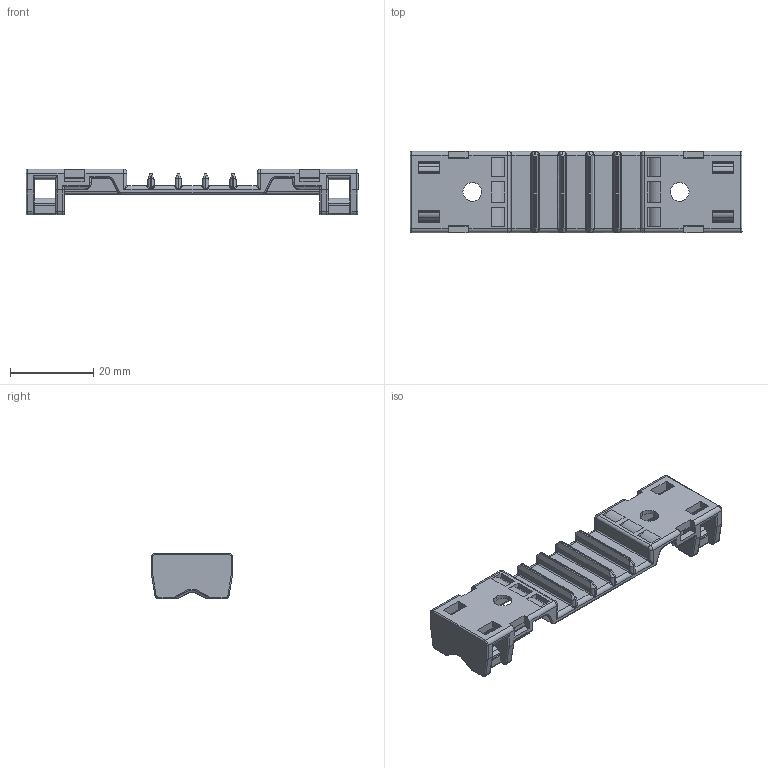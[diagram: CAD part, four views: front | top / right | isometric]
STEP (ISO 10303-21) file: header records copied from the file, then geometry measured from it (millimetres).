
FILE_DESCRIPTION(('Creo Elements/Direct Modeling STEP Export'),'2;1');
FILE_NAME('OL-G4A-80.stp','2013-03-11T14:53:26',(''),(''),'Creo Elements/Direct Modeling STEP processor for AP214 (Solid Model)','Creo Elements/Direct Modeling 18.1B 29-Sep-2012 (C) Parametric Technology GmbH','');
FILE_SCHEMA(('AUTOMOTIVE_DESIGN { 1 0 10303 214 1 1 1 1 }'));
Products named in the file (2): OL-G4A-80
Assembly tree (1 placements, depth 2):
  OL-G4A-80
    OL-G4A-80
Bounding box: 80 x 19.6 x 11 mm (x, y, z)
Volume: 5204.3 mm3; surface area: 6274.3 mm2
Topology: 1 solids, 1 shells, 1009 faces, 2720 edges, 1690 vertices
Faces by surface type: plane 539, cylinder 270, bspline 118, torus 46, cone 16, extrusion 14, sphere 6
Entity records: 46009 total; most frequent: CARTESIAN_POINT 22106, ORIENTED_EDGE 5388, DIRECTION 4389, EDGE_CURVE 2694, VECTOR 1855, LINE 1841, VERTEX_POINT 1690, AXIS2_PLACEMENT_3D 1267
